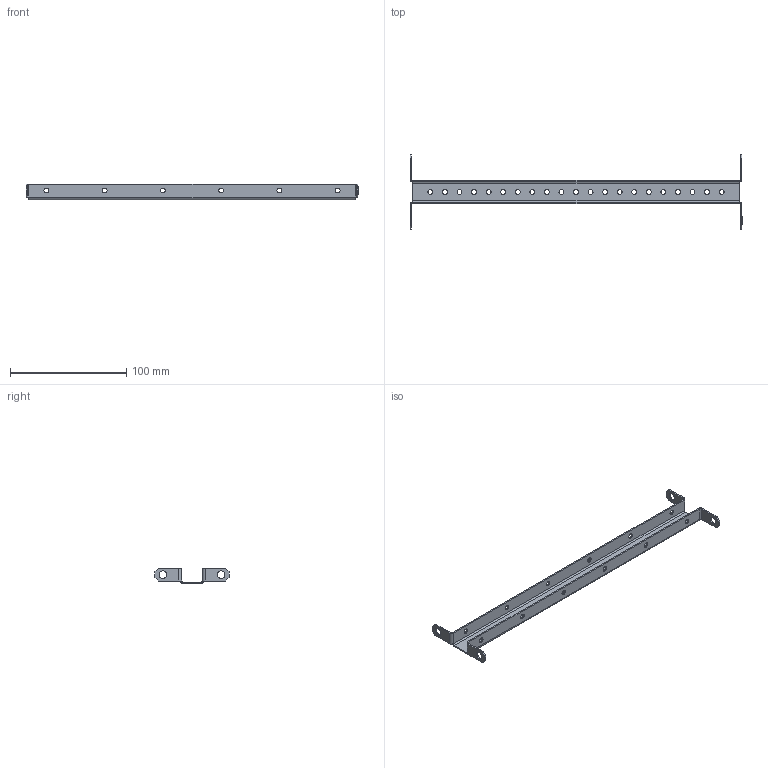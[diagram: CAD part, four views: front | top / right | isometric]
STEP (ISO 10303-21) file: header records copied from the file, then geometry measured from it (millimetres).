
FILE_DESCRIPTION (( 'STEP AP203' ), '1' );
FILE_NAME ('MG 40.02 Ìîíòàæíàÿ ðåéêà.STEP', '2023-04-04T07:33:40', ( '' ), ( '' ), 'SwSTEP 2.0', 'SolidWorks 2018', '' );
FILE_SCHEMA (( 'CONFIG_CONTROL_DESIGN' ));
Length unit declared in the file: millimetre
Products named in the file (1): MG 40.02 Ìîíòàæíàÿ ðåéêà
Bounding box: 285 x 63.6 x 13.5 mm (x, y, z)
Volume: 14973.9 mm3; surface area: 26560.8 mm2
Topology: 1 solids, 1 shells, 130 faces, 348 edges, 220 vertices
Faces by surface type: cylinder 86, plane 44
Entity records: 4321 total; most frequent: DIRECTION 782, CARTESIAN_POINT 699, ORIENTED_EDGE 696, EDGE_CURVE 348, AXIS2_PLACEMENT_3D 303, VERTEX_POINT 220, EDGE_LOOP 204, LINE 176
